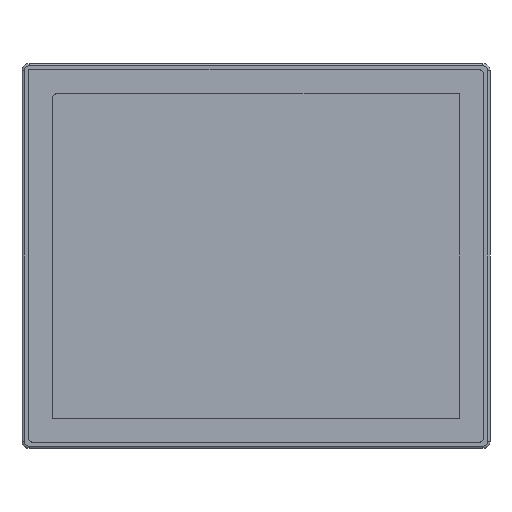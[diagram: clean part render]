
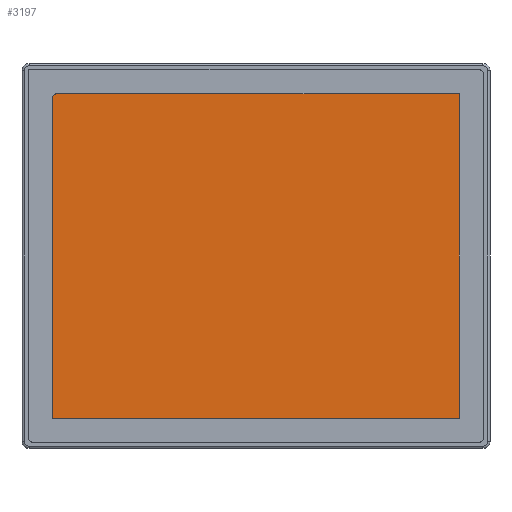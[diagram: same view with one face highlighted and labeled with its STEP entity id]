
A CAD part, front view. The second image highlights one B-rep face of the part: STEP entity #3197.
In plain terms, the highlighted planar face has unit normal (0, -1, 0).
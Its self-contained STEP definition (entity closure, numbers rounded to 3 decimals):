
#89=CIRCLE('',#3348,4.);
#163=ORIENTED_EDGE('',*,*,#767,.T.);
#164=ORIENTED_EDGE('',*,*,#768,.T.);
#165=ORIENTED_EDGE('',*,*,#769,.T.);
#166=ORIENTED_EDGE('',*,*,#770,.T.);
#167=ORIENTED_EDGE('',*,*,#771,.T.);
#767=EDGE_CURVE('',#1069,#1070,#1271,.T.);
#768=EDGE_CURVE('',#1070,#1071,#89,.T.);
#769=EDGE_CURVE('',#1071,#1072,#1272,.T.);
#770=EDGE_CURVE('',#1072,#1073,#1273,.T.);
#771=EDGE_CURVE('',#1073,#1069,#1274,.T.);
#1069=VERTEX_POINT('',#4261);
#1070=VERTEX_POINT('',#4262);
#1071=VERTEX_POINT('',#4264);
#1072=VERTEX_POINT('',#4266);
#1073=VERTEX_POINT('',#4268);
#1271=LINE('',#4260,#1487);
#1272=LINE('',#4265,#1488);
#1273=LINE('',#4267,#1489);
#1274=LINE('',#4269,#1490);
#1487=VECTOR('',#3582,1000.);
#1488=VECTOR('',#3585,1000.);
#1489=VECTOR('',#3586,1000.);
#1490=VECTOR('',#3587,1000.);
#1703=EDGE_LOOP('',(#163,#164,#165,#166,#167));
#1891=FACE_BOUND('',#1703,.T.);
#2079=PLANE('',#3347);
#3197=ADVANCED_FACE('',(#1891),#2079,.T.);
#3347=AXIS2_PLACEMENT_3D('',#4259,#3580,#3581);
#3348=AXIS2_PLACEMENT_3D('',#4263,#3583,#3584);
#3580=DIRECTION('',(0.,-1.,0.));
#3581=DIRECTION('',(0.,0.,-1.));
#3582=DIRECTION('',(-1.,0.,0.));
#3583=DIRECTION('',(0.,-1.,0.));
#3584=DIRECTION('',(0.,0.,-1.));
#3585=DIRECTION('',(0.,0.,-1.));
#3586=DIRECTION('',(1.,0.,0.));
#3587=DIRECTION('',(0.,0.,1.));
#4259=CARTESIAN_POINT('',(0.,0.2,0.));
#4260=CARTESIAN_POINT('',(169.,0.2,135.));
#4261=CARTESIAN_POINT('',(169.,0.2,135.));
#4262=CARTESIAN_POINT('',(-165.,0.2,135.));
#4263=CARTESIAN_POINT('',(-165.,0.2,131.));
#4264=CARTESIAN_POINT('',(-169.,0.2,131.));
#4265=CARTESIAN_POINT('',(-169.,0.2,135.));
#4266=CARTESIAN_POINT('',(-169.,0.2,-135.));
#4267=CARTESIAN_POINT('',(-169.,0.2,-135.));
#4268=CARTESIAN_POINT('',(169.,0.2,-135.));
#4269=CARTESIAN_POINT('',(169.,0.2,-135.));
